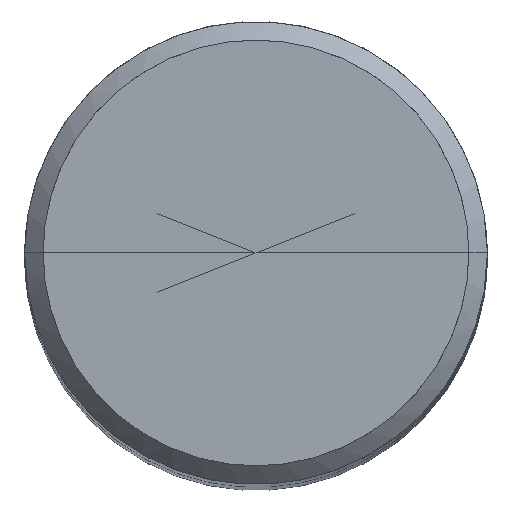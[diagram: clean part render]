
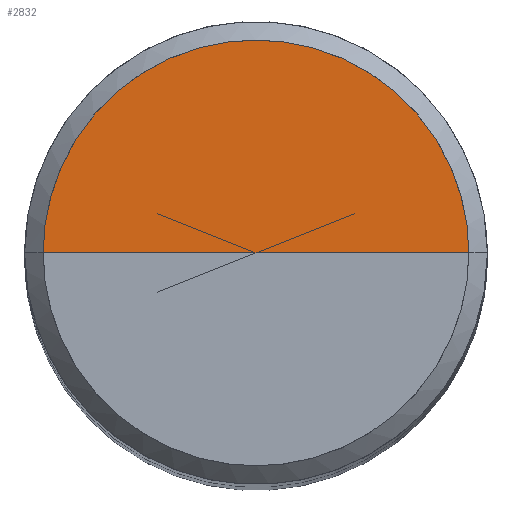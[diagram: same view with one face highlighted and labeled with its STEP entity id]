
A CAD part, top view. The second image highlights one B-rep face of the part: STEP entity #2832.
In plain terms, the highlighted free-form (B-spline) face has degree [1, 2] with [2, 5] control points.
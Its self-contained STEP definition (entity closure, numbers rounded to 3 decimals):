
#2635=CARTESIAN_POINT('',(9.2,0.0,70.0));
#2636=CARTESIAN_POINT('',(9.2,9.2,70.0));
#2637=CARTESIAN_POINT('',(0.0,9.2,70.0));
#2638=CARTESIAN_POINT('',(-9.2,9.2,70.0));
#2639=CARTESIAN_POINT('',(-9.2,0.0,70.0));
#2640=CARTESIAN_POINT('',(0.0,0.0,70.0));
#2817=(
BOUNDED_SURFACE()
B_SPLINE_SURFACE(1,2,(
(#2635,#2636,#2637,#2638,#2639),
(#2640,#2640,#2640,#2640,#2640)
), .UNSPECIFIED.,.F.,.F.,.F.)
B_SPLINE_SURFACE_WITH_KNOTS((2,2),(3,2,3),(
0.0,1.0),(
0.0,0.5,1.0), .UNSPECIFIED.)
GEOMETRIC_REPRESENTATION_ITEM()
RATIONAL_B_SPLINE_SURFACE(((1.0,0.707,1.0,0.707,1.0),
(1.0,0.707,1.0,0.707,1.0)
))
REPRESENTATION_ITEM('')
SURFACE()
);
#2818=(
BOUNDED_CURVE()
B_SPLINE_CURVE(2,(#2639,#2638,#2637,#2636,#2635),.UNSPECIFIED.,.F.,.F.)
B_SPLINE_CURVE_WITH_KNOTS((3,2,3),
(0.0,0.5,1.0),.UNSPECIFIED.)
CURVE()
GEOMETRIC_REPRESENTATION_ITEM()
RATIONAL_B_SPLINE_CURVE((1.0,0.707,1.0,0.707,1.0))
REPRESENTATION_ITEM('')
);
#2819=(
BOUNDED_CURVE()
B_SPLINE_CURVE(1,(#2635,#2640),.UNSPECIFIED.,.F.,.F.)
B_SPLINE_CURVE_WITH_KNOTS((2,2),
(0.0,1.0),.UNSPECIFIED.)
CURVE()
GEOMETRIC_REPRESENTATION_ITEM()
RATIONAL_B_SPLINE_CURVE((1.0,1.0))
REPRESENTATION_ITEM('')
);
#2820=(
BOUNDED_CURVE()
B_SPLINE_CURVE(1,(#2640,#2639),.UNSPECIFIED.,.F.,.F.)
B_SPLINE_CURVE_WITH_KNOTS((2,2),
(0.0,1.0),.UNSPECIFIED.)
CURVE()
GEOMETRIC_REPRESENTATION_ITEM()
RATIONAL_B_SPLINE_CURVE((1.0,1.0))
REPRESENTATION_ITEM('')
);
#2821=VERTEX_POINT('',#2635);
#2822=VERTEX_POINT('',#2639);
#2823=VERTEX_POINT('',#2640);
#2824=EDGE_CURVE('',#2822,#2821,#2818,.T.);
#2825=EDGE_CURVE('',#2821,#2823,#2819,.T.);
#2826=EDGE_CURVE('',#2823,#2822,#2820,.T.);
#2827=ORIENTED_EDGE('',*,*,#2824,.T.);
#2828=ORIENTED_EDGE('',*,*,#2825,.T.);
#2829=ORIENTED_EDGE('',*,*,#2826,.T.);
#2830=EDGE_LOOP('',(#2827,#2828,#2829));
#2831=FACE_OUTER_BOUND('',#2830,.T.);
#2832=ADVANCED_FACE('',(#2831),#2817,.T.);
